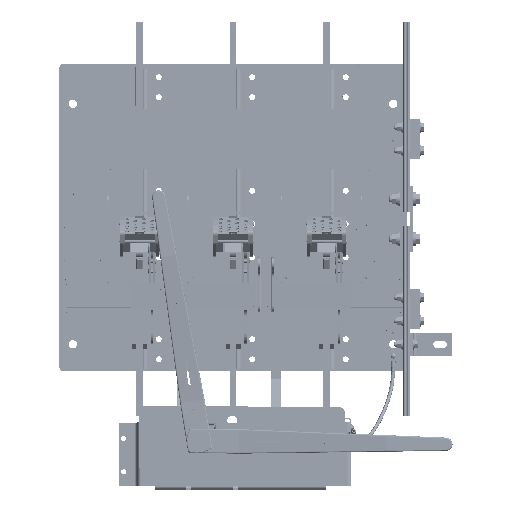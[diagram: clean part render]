
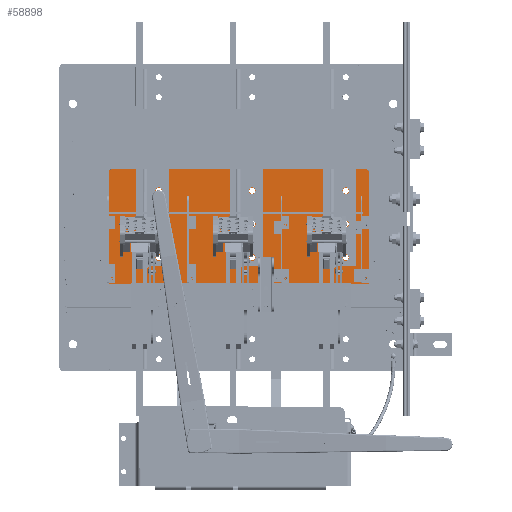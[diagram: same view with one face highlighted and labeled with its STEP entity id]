
A CAD part, top view. The second image highlights one B-rep face of the part: STEP entity #58898.
In plain terms, the highlighted planar face has unit normal (0, 0, 1).
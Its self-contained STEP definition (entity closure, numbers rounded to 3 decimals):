
#2742=FACE_BOUND('',#9619,.T.);
#2743=FACE_BOUND('',#9620,.T.);
#2744=FACE_BOUND('',#9621,.T.);
#2745=FACE_BOUND('',#9622,.T.);
#2746=FACE_BOUND('',#9623,.T.);
#2747=FACE_BOUND('',#9624,.T.);
#2748=FACE_BOUND('',#9625,.T.);
#2749=FACE_BOUND('',#9626,.T.);
#2750=FACE_BOUND('',#9627,.T.);
#2751=FACE_BOUND('',#9628,.T.);
#2752=FACE_BOUND('',#9629,.T.);
#2753=FACE_BOUND('',#9630,.T.);
#2754=FACE_BOUND('',#9631,.T.);
#2755=FACE_BOUND('',#9632,.T.);
#2756=FACE_BOUND('',#9633,.T.);
#2757=FACE_BOUND('',#9634,.T.);
#2758=FACE_BOUND('',#9635,.T.);
#4054=PLANE('',#64407);
#6157=FACE_OUTER_BOUND('',#9618,.T.);
#9618=EDGE_LOOP('',(#44616,#44617,#44618,#44619,#44620,#44621));
#9619=EDGE_LOOP('',(#44622));
#9620=EDGE_LOOP('',(#44623));
#9621=EDGE_LOOP('',(#44624));
#9622=EDGE_LOOP('',(#44625));
#9623=EDGE_LOOP('',(#44626));
#9624=EDGE_LOOP('',(#44627));
#9625=EDGE_LOOP('',(#44628));
#9626=EDGE_LOOP('',(#44629));
#9627=EDGE_LOOP('',(#44630));
#9628=EDGE_LOOP('',(#44631));
#9629=EDGE_LOOP('',(#44632));
#9630=EDGE_LOOP('',(#44633));
#9631=EDGE_LOOP('',(#44634));
#9632=EDGE_LOOP('',(#44635));
#9633=EDGE_LOOP('',(#44636));
#9634=EDGE_LOOP('',(#44637));
#9635=EDGE_LOOP('',(#44638));
#13616=CIRCLE('',#64190,0.07);
#13618=CIRCLE('',#64194,0.07);
#13620=CIRCLE('',#64198,0.07);
#13622=CIRCLE('',#64202,0.07);
#13624=CIRCLE('',#64206,0.07);
#13626=CIRCLE('',#64210,0.07);
#13628=CIRCLE('',#64214,0.07);
#13630=CIRCLE('',#64218,0.07);
#13634=CIRCLE('',#64226,0.219);
#13635=CIRCLE('',#64228,0.219);
#13636=CIRCLE('',#64230,0.219);
#13637=CIRCLE('',#64232,0.219);
#13638=CIRCLE('',#64234,0.219);
#13639=CIRCLE('',#64236,0.219);
#13640=CIRCLE('',#64238,0.219);
#13641=CIRCLE('',#64240,0.219);
#13642=CIRCLE('',#64242,0.219);
#13721=CIRCLE('',#64401,0.237);
#13722=CIRCLE('',#64406,0.237);
#16888=LINE('',#91083,#21806);
#16892=LINE('',#91092,#21810);
#16894=LINE('',#91096,#21812);
#16896=LINE('',#91100,#21814);
#21806=VECTOR('',#73856,0.394);
#21810=VECTOR('',#73866,0.394);
#21812=VECTOR('',#73870,0.394);
#21814=VECTOR('',#73874,0.394);
#26918=VERTEX_POINT('',#90624);
#26920=VERTEX_POINT('',#90631);
#26922=VERTEX_POINT('',#90638);
#26924=VERTEX_POINT('',#90645);
#26926=VERTEX_POINT('',#90652);
#26928=VERTEX_POINT('',#90659);
#26930=VERTEX_POINT('',#90666);
#26932=VERTEX_POINT('',#90673);
#26936=VERTEX_POINT('',#90687);
#26937=VERTEX_POINT('',#90691);
#26938=VERTEX_POINT('',#90695);
#26939=VERTEX_POINT('',#90699);
#26940=VERTEX_POINT('',#90703);
#26941=VERTEX_POINT('',#90707);
#26942=VERTEX_POINT('',#90711);
#26943=VERTEX_POINT('',#90715);
#26944=VERTEX_POINT('',#90719);
#27056=VERTEX_POINT('',#91081);
#27057=VERTEX_POINT('',#91082);
#27058=VERTEX_POINT('',#91087);
#27059=VERTEX_POINT('',#91091);
#27060=VERTEX_POINT('',#91095);
#27061=VERTEX_POINT('',#91099);
#33329=EDGE_CURVE('',#26918,#26918,#13616,.T.);
#33332=EDGE_CURVE('',#26920,#26920,#13618,.T.);
#33335=EDGE_CURVE('',#26922,#26922,#13620,.T.);
#33338=EDGE_CURVE('',#26924,#26924,#13622,.T.);
#33341=EDGE_CURVE('',#26926,#26926,#13624,.T.);
#33344=EDGE_CURVE('',#26928,#26928,#13626,.T.);
#33347=EDGE_CURVE('',#26930,#26930,#13628,.T.);
#33350=EDGE_CURVE('',#26932,#26932,#13630,.T.);
#33356=EDGE_CURVE('',#26936,#26936,#13634,.T.);
#33358=EDGE_CURVE('',#26937,#26937,#13635,.T.);
#33360=EDGE_CURVE('',#26938,#26938,#13636,.T.);
#33362=EDGE_CURVE('',#26939,#26939,#13637,.T.);
#33364=EDGE_CURVE('',#26940,#26940,#13638,.T.);
#33366=EDGE_CURVE('',#26941,#26941,#13639,.T.);
#33368=EDGE_CURVE('',#26942,#26942,#13640,.T.);
#33370=EDGE_CURVE('',#26943,#26943,#13641,.T.);
#33372=EDGE_CURVE('',#26944,#26944,#13642,.T.);
#33543=EDGE_CURVE('',#27056,#27057,#16888,.T.);
#33546=EDGE_CURVE('',#27057,#27058,#13721,.T.);
#33548=EDGE_CURVE('',#27058,#27059,#16892,.T.);
#33550=EDGE_CURVE('',#27059,#27060,#16894,.T.);
#33552=EDGE_CURVE('',#27060,#27061,#16896,.T.);
#33554=EDGE_CURVE('',#27061,#27056,#13722,.T.);
#44616=ORIENTED_EDGE('',*,*,#33543,.F.);
#44617=ORIENTED_EDGE('',*,*,#33554,.F.);
#44618=ORIENTED_EDGE('',*,*,#33552,.F.);
#44619=ORIENTED_EDGE('',*,*,#33550,.F.);
#44620=ORIENTED_EDGE('',*,*,#33548,.F.);
#44621=ORIENTED_EDGE('',*,*,#33546,.F.);
#44622=ORIENTED_EDGE('',*,*,#33329,.T.);
#44623=ORIENTED_EDGE('',*,*,#33332,.T.);
#44624=ORIENTED_EDGE('',*,*,#33335,.T.);
#44625=ORIENTED_EDGE('',*,*,#33338,.T.);
#44626=ORIENTED_EDGE('',*,*,#33341,.T.);
#44627=ORIENTED_EDGE('',*,*,#33344,.T.);
#44628=ORIENTED_EDGE('',*,*,#33347,.T.);
#44629=ORIENTED_EDGE('',*,*,#33350,.T.);
#44630=ORIENTED_EDGE('',*,*,#33356,.T.);
#44631=ORIENTED_EDGE('',*,*,#33358,.T.);
#44632=ORIENTED_EDGE('',*,*,#33360,.T.);
#44633=ORIENTED_EDGE('',*,*,#33362,.T.);
#44634=ORIENTED_EDGE('',*,*,#33364,.T.);
#44635=ORIENTED_EDGE('',*,*,#33366,.T.);
#44636=ORIENTED_EDGE('',*,*,#33368,.T.);
#44637=ORIENTED_EDGE('',*,*,#33370,.T.);
#44638=ORIENTED_EDGE('',*,*,#33372,.T.);
#58898=ADVANCED_FACE('',(#6157,#2742,#2743,#2744,#2745,#2746,#2747,#2748,
#2749,#2750,#2751,#2752,#2753,#2754,#2755,#2756,#2757,#2758),#4054,.T.);
#64190=AXIS2_PLACEMENT_3D('',#90625,#73327,#73328);
#64194=AXIS2_PLACEMENT_3D('',#90632,#73336,#73337);
#64198=AXIS2_PLACEMENT_3D('',#90639,#73345,#73346);
#64202=AXIS2_PLACEMENT_3D('',#90646,#73354,#73355);
#64206=AXIS2_PLACEMENT_3D('',#90653,#73363,#73364);
#64210=AXIS2_PLACEMENT_3D('',#90660,#73372,#73373);
#64214=AXIS2_PLACEMENT_3D('',#90667,#73381,#73382);
#64218=AXIS2_PLACEMENT_3D('',#90674,#73390,#73391);
#64226=AXIS2_PLACEMENT_3D('',#90688,#73408,#73409);
#64228=AXIS2_PLACEMENT_3D('',#90692,#73413,#73414);
#64230=AXIS2_PLACEMENT_3D('',#90696,#73418,#73419);
#64232=AXIS2_PLACEMENT_3D('',#90700,#73423,#73424);
#64234=AXIS2_PLACEMENT_3D('',#90704,#73428,#73429);
#64236=AXIS2_PLACEMENT_3D('',#90708,#73433,#73434);
#64238=AXIS2_PLACEMENT_3D('',#90712,#73438,#73439);
#64240=AXIS2_PLACEMENT_3D('',#90716,#73443,#73444);
#64242=AXIS2_PLACEMENT_3D('',#90720,#73448,#73449);
#64401=AXIS2_PLACEMENT_3D('',#91088,#73861,#73862);
#64406=AXIS2_PLACEMENT_3D('',#91103,#73878,#73879);
#64407=AXIS2_PLACEMENT_3D('',#91104,#73880,#73881);
#73327=DIRECTION('center_axis',(0.,0.,-1.));
#73328=DIRECTION('ref_axis',(-1.,0.,0.));
#73336=DIRECTION('center_axis',(0.,0.,-1.));
#73337=DIRECTION('ref_axis',(-1.,0.,0.));
#73345=DIRECTION('center_axis',(0.,0.,-1.));
#73346=DIRECTION('ref_axis',(-1.,0.,0.));
#73354=DIRECTION('center_axis',(0.,0.,-1.));
#73355=DIRECTION('ref_axis',(-1.,0.,0.));
#73363=DIRECTION('center_axis',(0.,0.,-1.));
#73364=DIRECTION('ref_axis',(-1.,0.,0.));
#73372=DIRECTION('center_axis',(0.,0.,-1.));
#73373=DIRECTION('ref_axis',(-1.,0.,0.));
#73381=DIRECTION('center_axis',(0.,0.,-1.));
#73382=DIRECTION('ref_axis',(-1.,0.,0.));
#73390=DIRECTION('center_axis',(0.,0.,-1.));
#73391=DIRECTION('ref_axis',(-1.,0.,0.));
#73408=DIRECTION('center_axis',(0.,0.,-1.));
#73409=DIRECTION('ref_axis',(-1.,0.,0.));
#73413=DIRECTION('center_axis',(0.,0.,-1.));
#73414=DIRECTION('ref_axis',(-1.,0.,0.));
#73418=DIRECTION('center_axis',(0.,0.,-1.));
#73419=DIRECTION('ref_axis',(-1.,0.,0.));
#73423=DIRECTION('center_axis',(0.,0.,-1.));
#73424=DIRECTION('ref_axis',(-1.,0.,0.));
#73428=DIRECTION('center_axis',(0.,0.,-1.));
#73429=DIRECTION('ref_axis',(-1.,0.,0.));
#73433=DIRECTION('center_axis',(0.,0.,-1.));
#73434=DIRECTION('ref_axis',(-1.,0.,0.));
#73438=DIRECTION('center_axis',(0.,0.,-1.));
#73439=DIRECTION('ref_axis',(-1.,0.,0.));
#73443=DIRECTION('center_axis',(0.,0.,-1.));
#73444=DIRECTION('ref_axis',(-1.,0.,0.));
#73448=DIRECTION('center_axis',(0.,0.,-1.));
#73449=DIRECTION('ref_axis',(-1.,0.,0.));
#73856=DIRECTION('',(1.,0.,0.));
#73861=DIRECTION('center_axis',(0.,0.,-1.));
#73862=DIRECTION('ref_axis',(-1.,0.,0.));
#73866=DIRECTION('',(0.,-1.,0.));
#73870=DIRECTION('',(-1.,0.,0.));
#73874=DIRECTION('',(0.,1.,0.));
#73878=DIRECTION('center_axis',(0.,0.,-1.));
#73879=DIRECTION('ref_axis',(0.,-1.,0.));
#73880=DIRECTION('center_axis',(0.,0.,1.));
#73881=DIRECTION('ref_axis',(1.,0.,0.));
#90624=CARTESIAN_POINT('',(38.758,-12.063,0.5));
#90625=CARTESIAN_POINT('Origin',(38.688,-12.063,0.5));
#90631=CARTESIAN_POINT('',(45.758,-12.063,0.5));
#90632=CARTESIAN_POINT('Origin',(45.688,-12.063,0.5));
#90638=CARTESIAN_POINT('',(51.758,-12.063,0.5));
#90639=CARTESIAN_POINT('Origin',(51.688,-12.063,0.5));
#90645=CARTESIAN_POINT('',(51.758,-16.063,0.5));
#90646=CARTESIAN_POINT('Origin',(51.688,-16.063,0.5));
#90652=CARTESIAN_POINT('',(45.758,-16.063,0.5));
#90653=CARTESIAN_POINT('Origin',(45.688,-16.063,0.5));
#90659=CARTESIAN_POINT('',(38.758,-16.063,0.5));
#90660=CARTESIAN_POINT('Origin',(38.688,-16.063,0.5));
#90666=CARTESIAN_POINT('',(32.758,-16.063,0.5));
#90667=CARTESIAN_POINT('Origin',(32.688,-16.063,0.5));
#90673=CARTESIAN_POINT('',(32.758,-12.063,0.5));
#90674=CARTESIAN_POINT('Origin',(32.688,-12.063,0.5));
#90687=CARTESIAN_POINT('',(50.406,-9.5,0.5));
#90688=CARTESIAN_POINT('Origin',(50.188,-9.5,0.5));
#90691=CARTESIAN_POINT('',(50.406,-12.,0.5));
#90692=CARTESIAN_POINT('Origin',(50.188,-12.,0.5));
#90695=CARTESIAN_POINT('',(50.406,-14.5,0.5));
#90696=CARTESIAN_POINT('Origin',(50.188,-14.5,0.5));
#90699=CARTESIAN_POINT('',(43.406,-9.5,0.5));
#90700=CARTESIAN_POINT('Origin',(43.188,-9.5,0.5));
#90703=CARTESIAN_POINT('',(43.406,-12.,0.5));
#90704=CARTESIAN_POINT('Origin',(43.188,-12.,0.5));
#90707=CARTESIAN_POINT('',(43.406,-14.5,0.5));
#90708=CARTESIAN_POINT('Origin',(43.188,-14.5,0.5));
#90711=CARTESIAN_POINT('',(36.406,-14.5,0.5));
#90712=CARTESIAN_POINT('Origin',(36.188,-14.5,0.5));
#90715=CARTESIAN_POINT('',(36.406,-12.,0.5));
#90716=CARTESIAN_POINT('Origin',(36.188,-12.,0.5));
#90719=CARTESIAN_POINT('',(36.406,-9.5,0.5));
#90720=CARTESIAN_POINT('Origin',(36.188,-9.5,0.5));
#91081=CARTESIAN_POINT('',(32.688,-7.888,0.5));
#91082=CARTESIAN_POINT('',(51.688,-7.888,0.5));
#91083=CARTESIAN_POINT('',(32.688,-7.888,0.5));
#91087=CARTESIAN_POINT('',(51.924,-8.125,0.5));
#91088=CARTESIAN_POINT('Origin',(51.688,-8.125,0.5));
#91091=CARTESIAN_POINT('',(51.924,-16.461,0.5));
#91092=CARTESIAN_POINT('',(51.924,-8.125,0.5));
#91095=CARTESIAN_POINT('',(32.451,-16.461,0.5));
#91096=CARTESIAN_POINT('',(51.938,-16.461,0.5));
#91099=CARTESIAN_POINT('',(32.451,-8.125,0.5));
#91100=CARTESIAN_POINT('',(32.451,-16.474,0.5));
#91103=CARTESIAN_POINT('Origin',(32.688,-8.125,0.5));
#91104=CARTESIAN_POINT('Origin',(42.188,-12.191,0.5));
